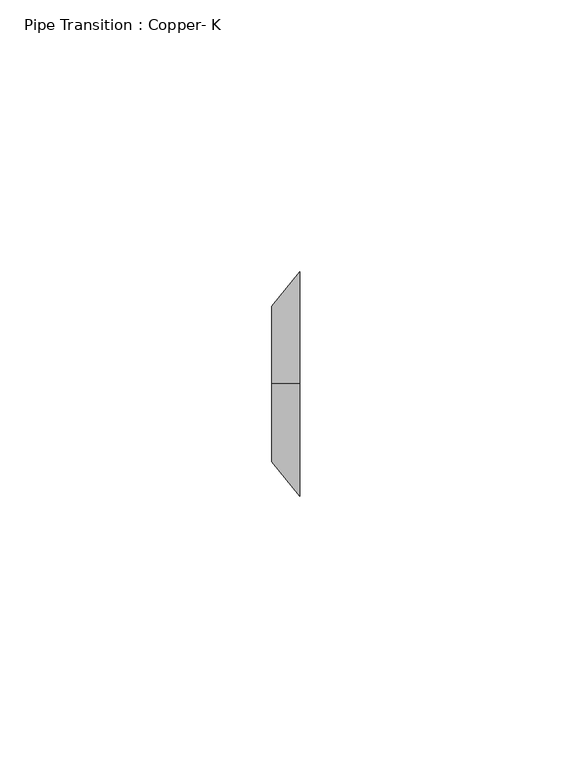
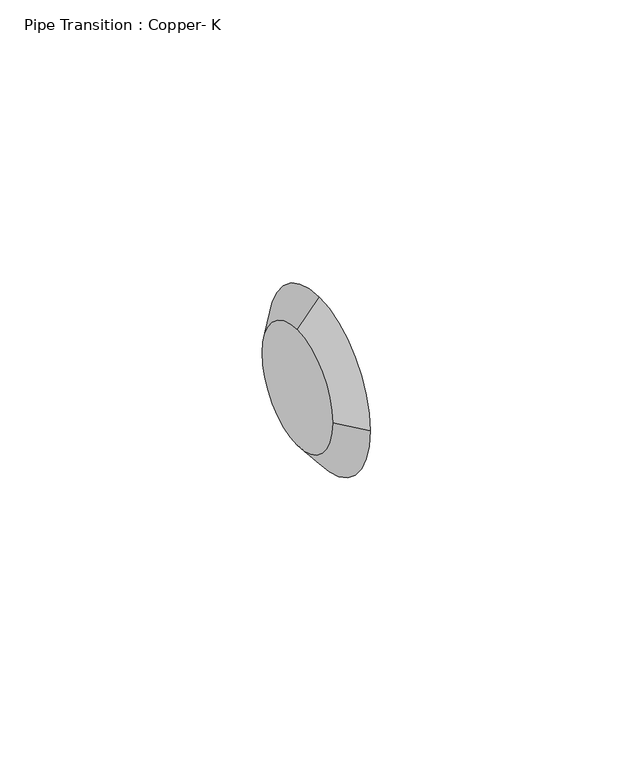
"""IFC4 building model written with IfcOpenShell, lengths in millimetres: pipe fitting geometry, Pipe Transition : Copper- K."""

import ifcopenshell
import ifcopenshell.guid

model = None  # the IFC model being written
_history = None  # IfcOwnerHistory: only IFC2X3 demands one
_inside = {}  # id of a spatial element -> (the spatial element, [elements in it])
_under = {}  # id of a project, library or spatial element -> (it, [spatial elements below it])
_declared = {}  # id of a project -> (the project, [libraries it declares])
_typed = {}  # id of a type object -> (the type object, [elements of that type])
_made_of = {}  # id of a material, layer set ... -> (it, [elements and type objects made of it])


def new_model(schema):
    """Start an empty IFC model of exactly this schema.

    Asked for "IFC4X3", IfcOpenShell would pick the latest addendum, in which some entities
    have other attributes; the version numbers below select the first issue.
    IFC2X3 requires an IfcOwnerHistory on every rooted entity: one is made here for all.
    """
    global model, _history
    if schema == "IFC4X3":
        model = ifcopenshell.file(schema_version=(4, 3, 0, 0))
    else:
        model = ifcopenshell.file(schema=schema)
    _inside.clear()
    _under.clear()
    _declared.clear()
    _typed.clear()
    _made_of.clear()
    _history = None
    if model.schema == "IFC2X3":
        org = make("IfcOrganization", Name="unknown")
        user = make(
            "IfcPersonAndOrganization",
            ThePerson=make("IfcPerson", FamilyName="unknown"),
            TheOrganization=org,
        )
        app = make(
            "IfcApplication",
            ApplicationDeveloper=org,
            Version="unknown",
            ApplicationFullName="unknown",
            ApplicationIdentifier="unknown",
        )
        _history = make(
            "IfcOwnerHistory",
            OwningUser=user,
            OwningApplication=app,
            ChangeAction="ADDED",
            CreationDate=0,
        )
    return model


def make(cls, **values):
    """One entity of the class cls with the attributes given. An attribute that is None is left unset."""
    return model.create_entity(
        cls, **{name: value for name, value in values.items() if value is not None}
    )


def rooted(cls, **values):
    """An entity with a GlobalId (a new one), such as an element, a storey or a relation."""
    return make(cls, GlobalId=ifcopenshell.guid.new(), OwnerHistory=_history, **values)


def si_unit(unit_type, name, prefix=None):
    """IfcSIUnit, for example si_unit("LENGTHUNIT", "METRE", prefix="MILLI")."""
    return make("IfcSIUnit", UnitType=unit_type, Prefix=prefix, Name=name)


def assignment(units):
    """IfcUnitAssignment: the units of a project."""
    return None if units is None else make("IfcUnitAssignment", Units=units)


def point(xyz):
    """IfcCartesianPoint."""
    return None if xyz is None else make("IfcCartesianPoint", Coordinates=xyz)


def direction(xyz):
    """IfcDirection."""
    return None if xyz is None else make("IfcDirection", DirectionRatios=xyz)


def frame(location, z_axis=None, x_axis=None):
    """IfcAxis2Placement3D, a coordinate frame: its origin and axes. An axis left out is left unset."""
    return make(
        "IfcAxis2Placement3D",
        Location=point(location),
        Axis=direction(z_axis),
        RefDirection=direction(x_axis),
    )


def origin():
    """The frame at (0, 0, 0) with its axes left unset."""
    return frame((0.0, 0.0, 0.0))


def place(relative_to, where):
    """IfcLocalPlacement: puts the frame where relative to a parent placement (None: the world)."""
    return make(
        "IfcLocalPlacement", PlacementRelTo=relative_to, RelativePlacement=where
    )


def context(
    kind, dimensions, precision=None, world=None, true_north=None, identifier=None
):
    """IfcGeometricRepresentationContext, for example the 3D "Model" context."""
    return make(
        "IfcGeometricRepresentationContext",
        ContextIdentifier=identifier,
        ContextType=kind,
        CoordinateSpaceDimension=dimensions,
        Precision=precision,
        WorldCoordinateSystem=world,
        TrueNorth=true_north,
    )


def project(units=None, contexts=None):
    """IfcProject with its units and contexts."""
    return rooted(
        "IfcProject",
        Name="project",
        RepresentationContexts=contexts,
        UnitsInContext=assignment(units),
    )


def spatial(cls, under=None, at=None, **own):
    """A site, building, storey or space (cls), placed at a placement, below another one or the project."""
    s = rooted(cls, ObjectPlacement=at, **own)
    if under is not None:
        _under.setdefault(under.id(), (under, []))[1].append(s)
    return s


def polyline(points):
    """IfcPolyline through the points."""
    return make("IfcPolyline", Points=[point(p) for p in points])


def circle_curve(where, radius):
    """IfcCircle in the frame where."""
    return make("IfcCircle", Position=where, Radius=radius)


def shape(context_of_items, identifier, shape_type, items):
    """IfcShapeRepresentation: the items that make up one representation, for example the "Body"."""
    return make(
        "IfcShapeRepresentation",
        ContextOfItems=context_of_items,
        RepresentationIdentifier=identifier,
        RepresentationType=shape_type,
        Items=items,
    )


def source(mapping_origin, context_of_items, identifier, shape_type, items):
    """IfcRepresentationMap: a shape defined once, which mapped items show again and again."""
    return make(
        "IfcRepresentationMap",
        MappingOrigin=mapping_origin,
        MappedRepresentation=shape(context_of_items, identifier, shape_type, items),
    )


def transform(
    local_origin,
    x_axis=None,
    y_axis=None,
    z_axis=None,
    scale=None,
    scale2=None,
    scale3=None,
    uniform=True,
):
    """IfcCartesianTransformationOperator3D, or its non-uniform kind. x_axis, y_axis, z_axis: its Axis1, 2, 3."""
    if uniform:
        return make(
            "IfcCartesianTransformationOperator3D",
            Axis1=direction(x_axis),
            Axis2=direction(y_axis),
            LocalOrigin=point(local_origin),
            Scale=scale,
            Axis3=direction(z_axis),
        )
    return make(
        "IfcCartesianTransformationOperator3DnonUniform",
        Axis1=direction(x_axis),
        Axis2=direction(y_axis),
        LocalOrigin=point(local_origin),
        Scale=scale,
        Axis3=direction(z_axis),
        Scale2=scale2,
        Scale3=scale3,
    )


def mapped(mapping_source, mapping_target):
    """IfcMappedItem: shows the shape of a source again, moved by a transform."""
    return make(
        "IfcMappedItem", MappingSource=mapping_source, MappingTarget=mapping_target
    )


def made_of(thing, what):
    """Note that an element or type object is made of a material, layer set ...; save() writes the relation."""
    if what is not None:
        _made_of.setdefault(what.id(), (what, []))[1].append(thing)
    return thing


def element(
    cls,
    number,
    at=None,
    inside=None,
    cuts=None,
    type_object=None,
    material=None,
    context=None,
    identifier="Body",
    shape_type=None,
    held_by="IfcProductDefinitionShape",
    body=None,
    shapes=None,
    **own,
):
    """One element of the class cls, such as IfcWall. Its Tag is "e" and its number.

    at: its placement. inside: the storey or other place that contains it. cuts: it is an
    opening in that element (IfcRelVoidsElement). A single representation is given by context,
    identifier, shape_type and body (its items); several are given by shapes. held_by: the class
    of the entity that holds the representations. save() writes the other relations.
    """
    e = rooted(cls, Tag="e%d" % number, ObjectPlacement=at, **own)
    if body is not None:
        shapes = [shape(context, identifier, shape_type, body)]
    if shapes is not None:
        e.Representation = make(held_by, Representations=shapes)
    if inside is not None:
        _inside.setdefault(inside.id(), (inside, []))[1].append(e)
    if cuts is not None:
        rooted(
            "IfcRelVoidsElement", RelatingBuildingElement=cuts, RelatedOpeningElement=e
        )
    if type_object is not None:
        _typed.setdefault(type_object.id(), (type_object, []))[1].append(e)
    return made_of(e, material)


def aggregate(whole, parts):
    """IfcRelAggregates: a whole, such as a stair, and the parts it consists of."""
    return rooted("IfcRelAggregates", RelatingObject=whole, RelatedObjects=parts)


def save(model, path):
    """Write the relations noted so far, then the file.

    IfcRelAggregates (storeys below a building ...), IfcRelContainedInSpatialStructure (elements
    in a storey), IfcRelDefinesByType, IfcRelAssociatesMaterial and IfcRelDeclares: one each for
    every whole, place, type object, material and project.
    """
    for whole, parts in _under.values():
        aggregate(whole, parts)
    for where, things in _inside.values():
        rooted(
            "IfcRelContainedInSpatialStructure",
            RelatedElements=things,
            RelatingStructure=where,
        )
    for kind, things in _typed.values():
        rooted("IfcRelDefinesByType", RelatedObjects=things, RelatingType=kind)
    for what, things in _made_of.values():
        rooted("IfcRelAssociatesMaterial", RelatedObjects=things, RelatingMaterial=what)
    for by, libraries in _declared.values():
        rooted("IfcRelDeclares", RelatingContext=by, RelatedDefinitions=libraries)
    model.write(path)


def plane_surface(at):
    """IfcPlane: the flat surface through the origin of the frame at, square to its z axis."""
    return make("IfcPlane", Position=at)


def revolved_surface(curve, axis_point, axis_direction):
    """IfcSurfaceOfRevolution: the curve turned about the line through axis_point along axis_direction."""
    return make(
        "IfcSurfaceOfRevolution",
        SweptCurve=make("IfcArbitraryOpenProfileDef", ProfileType="CURVE", Curve=curve),
        AxisPosition=make("IfcAxis1Placement", Location=point(axis_point), Axis=direction(axis_direction)),
    )


def advanced_brep(points, edges, surfaces, faces):
    """IfcAdvancedBrep: a solid bounded by faces that lie on surfaces and meet in shared edges.

    An edge is (start, end): straight between two places in points (the first is 0);
    or (start, end, curve); or (start, end, curve, False) where it runs against its curve.
    A face is (place in surfaces, loops), or (place, loops, False) where it looks against
    its surface's normal. A loop lists edges by number (the first is 1), with a minus sign
    where the edge is run from its end to its start. The first loop is the outer one.
    """
    corners = [point(p) for p in points]
    vertices = [make("IfcVertexPoint", VertexGeometry=c) for c in corners]
    made = []
    for start, end, *more in edges:
        made.append(
            make(
                "IfcEdgeCurve",
                EdgeStart=vertices[start],
                EdgeEnd=vertices[end],
                EdgeGeometry=more[0] if more else make("IfcPolyline", Points=[corners[start], corners[end]]),
                SameSense=more[1] if len(more) > 1 else True,
            )
        )
    hull = []
    for where, loops, *sense in faces:
        bounds = []
        for j, loop in enumerate(loops):
            ring = [make("IfcOrientedEdge", EdgeElement=made[abs(k) - 1], Orientation=k > 0) for k in loop]
            bounds.append(
                make(
                    "IfcFaceOuterBound" if j == 0 else "IfcFaceBound",
                    Bound=make("IfcEdgeLoop", EdgeList=ring),
                    Orientation=True,
                )
            )
        hull.append(make("IfcAdvancedFace", Bounds=bounds, FaceSurface=surfaces[where], SameSense=sense[0] if sense else True))
    return make("IfcAdvancedBrep", Outer=make("IfcClosedShell", CfsFaces=hull))


def pipe_transition_copper_k_af966018(model_context):
    return source(origin(), model_context, "Body", "AdvancedBrep", [
        advanced_brep(
        [(5.159375, 0.0, 20.6375), (5.159375, -20.6375, 0.0), (5.159375, 0.0, -20.6375), (5.159375, 20.6375, 0.0), (0.0, 0.0, 14.2875), (0.0, 14.2875, 0.0), (0.0, 0.0, -14.2875), (0.0, -14.2875, 0.0)],
        [
            (0, 1, circle_curve(frame((5.159375, 0.0, 0.0), z_axis=(1.0, 0.0, 0.0), x_axis=(0.0, 0.0, 1.0)), 20.6375)),
            (1, 2, circle_curve(frame((5.159375, 0.0, 0.0), z_axis=(1.0, 0.0, 0.0), x_axis=(0.0, -1.0, 0.0)), 20.6375)),
            (2, 3, circle_curve(frame((5.159375, 0.0, 0.0), z_axis=(1.0, 0.0, 0.0), x_axis=(0.0, 0.0, -1.0)), 20.6375)),
            (3, 0, circle_curve(frame((5.159375, 0.0, 0.0), z_axis=(1.0, 0.0, 0.0), x_axis=(0.0, 1.0, 0.0)), 20.6375)),
            (4, 5, circle_curve(frame((0.0, 0.0, 0.0), z_axis=(-1.0, 0.0, 0.0), x_axis=(0.0, 1.0, 0.0)), 14.2875)),
            (5, 6, circle_curve(frame((0.0, 0.0, 0.0), z_axis=(-1.0, 0.0, 0.0), x_axis=(0.0, 0.0, -1.0)), 14.2875)),
            (6, 7, circle_curve(frame((0.0, 0.0, 0.0), z_axis=(-1.0, 0.0, 0.0), x_axis=(0.0, -1.0, 0.0)), 14.2875)),
            (7, 4, circle_curve(frame((0.0, 0.0, 0.0), z_axis=(-1.0, 0.0, 0.0), x_axis=(0.0, 0.0, 1.0)), 14.2875)),
            (7, 1),
            (0, 4),
            (6, 2),
            (5, 3),
        ],
        [
            plane_surface(frame((5.159375, 0.0, 0.0), z_axis=(1.0, 0.0, 0.0), x_axis=(0.0, -1.0, 0.0))),
            plane_surface(frame((0.0, 0.0, 0.0), z_axis=(-1.0, 0.0, 0.0), x_axis=(0.0, -1.0, 0.0))),
            revolved_surface(polyline([(0.0, -14.287499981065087, 0.0), (5.159375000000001, -20.6375, 0.0)]), (-11.6085937, 0.0, 0.0), (1.0, 0.0, 0.0)),
            revolved_surface(polyline([(0.0, 0.0, -14.287499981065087), (5.159375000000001, 0.0, -20.6375)]), (-11.6085937, 0.0, 0.0), (1.0, 0.0, 0.0)),
            revolved_surface(polyline([(0.0, 14.287499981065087, 0.0), (5.159375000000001, 20.6375, 0.0)]), (-11.6085937, 0.0, 0.0), (1.0, 0.0, 0.0)),
            revolved_surface(polyline([(0.0, 0.0, 14.287499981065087), (5.159375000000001, 0.0, 20.6375)]), (-11.6085937, 0.0, 0.0), (1.0, 0.0, 0.0)),
        ],
        [
            (0, [[1, 2, 3, 4]]),
            (1, [[5, 6, 7, 8]]),
            (2, [[-8, 9, -1, 10]]),
            (3, [[-7, 11, -2, -9]]),
            (4, [[-6, 12, -3, -11]]),
            (5, [[-5, -10, -4, -12]]),
        ],
    ),
        advanced_brep(
        [(5.159375, 0.0, 20.6375), (5.159375, -20.6375, 0.0), (5.159375, 0.0, -20.6375), (5.159375, 20.6375, 0.0), (0.0, 0.0, 14.2875), (0.0, 14.2875, 0.0), (0.0, 0.0, -14.2875), (0.0, -14.2875, 0.0)],
        [
            (0, 1, circle_curve(frame((5.159375, 0.0, 0.0), z_axis=(1.0, 0.0, -1.6220240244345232e-12), x_axis=(1.622032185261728e-12, 0.0, 1.0)), 20.6375)),
            (1, 2, circle_curve(frame((5.159375, 0.0, 0.0), z_axis=(1.0, 0.0, -1.5564354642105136e-12), x_axis=(0.0, -1.0, 0.0)), 20.6375)),
            (2, 3, circle_curve(frame((5.159375, 0.0, 0.0), z_axis=(1.0, 0.0, -2.5275879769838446e-12), x_axis=(-2.5275321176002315e-12, 0.0, -1.0)), 20.6375)),
            (3, 0, circle_curve(frame((5.159375, 0.0, 0.0), z_axis=(1.0, 0.0, 0.0), x_axis=(0.0, 1.0, 0.0)), 20.6375)),
            (4, 5, circle_curve(frame((0.0, 0.0, 0.0), z_axis=(-1.0, 0.0, 0.0), x_axis=(0.0, 1.0, 0.0)), 14.2875)),
            (5, 6, circle_curve(frame((0.0, 0.0, 0.0), z_axis=(-1.0, 0.0, 2.5275879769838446e-12), x_axis=(-2.5275321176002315e-12, 0.0, -1.0)), 14.2875)),
            (6, 7, circle_curve(frame((0.0, 0.0, 0.0), z_axis=(-1.0, 0.0, 1.5564354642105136e-12), x_axis=(0.0, -1.0, 0.0)), 14.2875)),
            (7, 4, circle_curve(frame((0.0, 0.0, 0.0), z_axis=(-1.0, 0.0, 1.6220240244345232e-12), x_axis=(1.622032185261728e-12, 0.0, 1.0)), 14.2875)),
            (7, 1),
            (0, 4),
            (6, 2),
            (5, 3),
        ],
        [
            plane_surface(frame((5.159375, 0.0, 0.0), z_axis=(1.0, 0.0, 0.0), x_axis=(0.0, -1.0, 0.0))),
            plane_surface(frame((0.0, 0.0, 0.0), z_axis=(-1.0, 0.0, 0.0), x_axis=(0.0, -1.0, 0.0))),
            revolved_surface(polyline([(-2.3174351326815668e-11, -14.287499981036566, 0.0), (5.159375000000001, -20.6375, 0.0)]), (-11.6085937, 0.0, 0.0), (1.0, 0.0, -1.6220240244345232e-12)),
            revolved_surface(polyline([(-2.2238211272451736e-11, 0.0, -14.287499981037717), (5.159375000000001, 0.0, -20.6375)]), (-11.6085937, 0.0, 0.0), (1.0, 0.0, -1.5564354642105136e-12)),
            revolved_surface(polyline([(0.0, 14.287499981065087, 0.0), (5.159375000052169, 20.637500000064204, 0.0)]), (-11.6085937, 0.0, 0.0), (1.0, 0.0, -2.5275879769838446e-12)),
            revolved_surface(polyline([(0.0, 0.0, 14.287499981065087), (5.159375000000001, 0.0, 20.6375)]), (-11.6085937, 0.0, 0.0), (1.0, 0.0, 0.0)),
        ],
        [
            (0, [[1, 2, 3, 4]]),
            (1, [[5, 6, 7, 8]]),
            (2, [[-8, 9, -1, 10]]),
            (3, [[-7, 11, -2, -9]]),
            (4, [[-6, 12, -3, -11]]),
            (5, [[-5, -10, -4, -12]]),
        ],
    ),
    ])


if __name__ == "__main__":
    model = new_model("IFC4")
    model_context = context("Model", 3, world=origin())
    ifc_project = project(units=[si_unit("LENGTHUNIT", "METRE", prefix="MILLI")], contexts=[model_context])
    site = spatial("IfcSite", under=ifc_project)
    building = spatial("IfcBuilding", under=site)
    placement = place(None, origin())
    pipe_transition_copper_k_shape = pipe_transition_copper_k_af966018(model_context)
    element("IfcPipeFitting", 1, ObjectType="Pipe Transition : Copper- K", at=placement, inside=building, context=model_context, shape_type="MappedRepresentation", body=[
        mapped(pipe_transition_copper_k_shape, transform((0.0, 0.0, 0.0), x_axis=(1.0, 0.0, 0.0), y_axis=(0.0, 1.0, 0.0), z_axis=(0.0, 0.0, 1.0))),
    ])
    save(model, "model.ifc")
